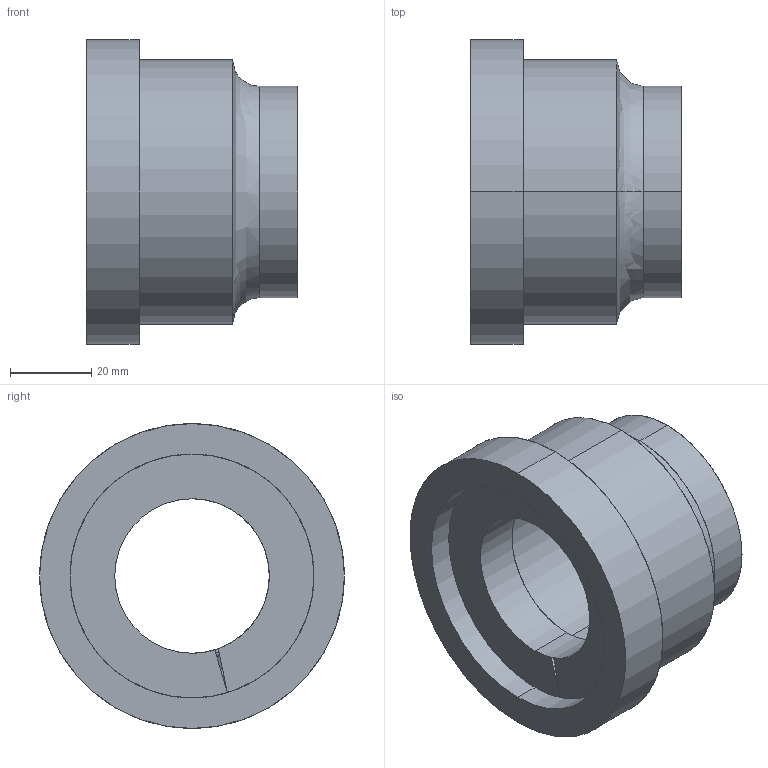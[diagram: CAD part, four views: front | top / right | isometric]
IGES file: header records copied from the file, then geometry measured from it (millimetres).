
Start section: SolidWorks IGES file using analytic representation for surfaces
Global section: file name: \\Datacenterrd1\@研發部\設計一課(冷媒)\(1)-文管中心\(2)-3D文管\(8)-Compressor 3Doutline(Surface)\Pipe\IGS\1 1-2(1 5-8銅管用).IGS; native system: SolidWorks 2013; preprocessor: SolidWorks 2013; author: hedylu; date: 140714.165036; units: millimetre
Bounding box: 52 x 75 x 75 mm (x, y, z)
Surface area: 22737.4 mm2 (no closed solid volume)
Topology: 0 solids, 0 shells, 23 faces, 705 edges, 693 vertices
Faces by surface type: revolution 14, bspline 9
